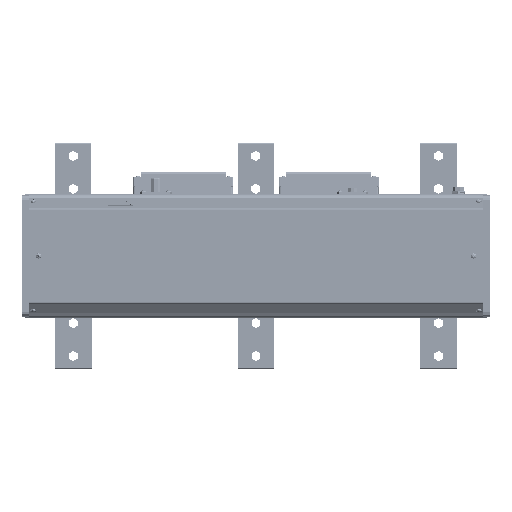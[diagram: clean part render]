
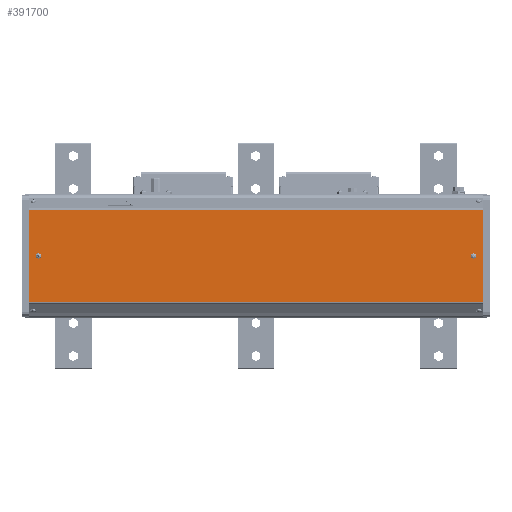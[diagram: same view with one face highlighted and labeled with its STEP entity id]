
A CAD part, front view. The second image highlights one B-rep face of the part: STEP entity #391700.
In plain terms, the highlighted planar face has unit normal (0, -1, 0) as drawn and (0, 0, -1) by its records, which use the part's own axes.
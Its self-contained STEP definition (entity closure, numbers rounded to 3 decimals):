
#10691 = EDGE_CURVE ( 'NONE', #251217, #399709, #363712, .T. ) ;
#15351 = CARTESIAN_POINT ( 'NONE',  ( 63., 260., 0. ) ) ;
#28715 = ORIENTED_EDGE ( 'NONE', *, *, #471254, .T. ) ;
#57140 = CARTESIAN_POINT ( 'NONE',  ( -2.5, 297.52, 0. ) ) ;
#60650 = PLANE ( 'NONE',  #719510 ) ;
#79266 = VECTOR ( 'NONE', #310806, 1000. ) ;
#79970 = VERTEX_POINT ( 'NONE', #57140 ) ;
#80660 = AXIS2_PLACEMENT_3D ( 'NONE', #192930, #586054, #249547 ) ;
#96344 = AXIS2_PLACEMENT_3D ( 'NONE', #331240, #724333, #387729 ) ;
#101328 = CARTESIAN_POINT ( 'NONE',  ( 2.5, -298., 0. ) ) ;
#105306 = FACE_BOUND ( 'NONE', #494055, .T. ) ;
#117368 = DIRECTION ( 'NONE',  ( 1., 0., 0. ) ) ;
#147781 = VECTOR ( 'NONE', #244217, 1000. ) ;
#184382 = CIRCLE ( 'NONE', #80660, 2.5 ) ;
#189197 = ORIENTED_EDGE ( 'NONE', *, *, #10691, .F. ) ;
#191516 = AXIS2_PLACEMENT_3D ( 'NONE', #267369, #660360, #323816 ) ;
#192930 = CARTESIAN_POINT ( 'NONE',  ( 0., 297.52, 0. ) ) ;
#194368 = DIRECTION ( 'NONE',  ( 0., 0., -1. ) ) ;
#194912 = CARTESIAN_POINT ( 'NONE',  ( 63., 310., 0. ) ) ;
#197685 = VERTEX_POINT ( 'NONE', #272285 ) ;
#197819 = CARTESIAN_POINT ( 'NONE',  ( -63., -260., 0. ) ) ;
#198300 = DIRECTION ( 'NONE',  ( -1., 0., 0. ) ) ;
#200318 = VERTEX_POINT ( 'NONE', #526926 ) ;
#244217 = DIRECTION ( 'NONE',  ( 0., -1., 0. ) ) ;
#249547 = DIRECTION ( 'NONE',  ( -1., 0., 0. ) ) ;
#251217 = VERTEX_POINT ( 'NONE', #101328 ) ;
#257727 = CARTESIAN_POINT ( 'NONE',  ( 63., 310., 0. ) ) ;
#267369 = CARTESIAN_POINT ( 'NONE',  ( 0., -298., 0. ) ) ;
#272285 = CARTESIAN_POINT ( 'NONE',  ( 63., -310., 0. ) ) ;
#283510 = EDGE_LOOP ( 'NONE', ( #376154, #477758, #28715, #660341 ) ) ;
#286408 = VERTEX_POINT ( 'NONE', #194912 ) ;
#305956 = EDGE_CURVE ( 'NONE', #286408, #200318, #348973, .T. ) ;
#310806 = DIRECTION ( 'NONE',  ( 0., 1., 0. ) ) ;
#320798 = CIRCLE ( 'NONE', #96344, 2.5 ) ;
#323816 = DIRECTION ( 'NONE',  ( -1., 0., 0. ) ) ;
#331240 = CARTESIAN_POINT ( 'NONE',  ( 0., 297.52, 0. ) ) ;
#348973 = LINE ( 'NONE', #257727, #647916 ) ;
#363712 = CIRCLE ( 'NONE', #191516, 2.5 ) ;
#375012 = LINE ( 'NONE', #532434, #506779 ) ;
#376154 = ORIENTED_EDGE ( 'NONE', *, *, #514929, .T. ) ;
#387642 = ORIENTED_EDGE ( 'NONE', *, *, #442668, .F. ) ;
#387729 = DIRECTION ( 'NONE',  ( -1., 0., 0. ) ) ;
#391700 = ADVANCED_FACE ( 'NONE', ( #105306, #685709, #536299 ), #60650, .F. ) ;
#399709 = VERTEX_POINT ( 'NONE', #685865 ) ;
#410046 = CARTESIAN_POINT ( 'NONE',  ( -63., -310., 0. ) ) ;
#430160 = EDGE_CURVE ( 'NONE', #672719, #79970, #320798, .T. ) ;
#442668 = EDGE_CURVE ( 'NONE', #79970, #672719, #184382, .T. ) ;
#447180 = EDGE_CURVE ( 'NONE', #197685, #639516, #375012, .T. ) ;
#454103 = DIRECTION ( 'NONE',  ( 0., 0., 1. ) ) ;
#471254 = EDGE_CURVE ( 'NONE', #639516, #200318, #659816, .T. ) ;
#477758 = ORIENTED_EDGE ( 'NONE', *, *, #447180, .T. ) ;
#494055 = EDGE_LOOP ( 'NONE', ( #387642, #537408 ) ) ;
#506779 = VECTOR ( 'NONE', #198300, 1000. ) ;
#514929 = EDGE_CURVE ( 'NONE', #286408, #197685, #596313, .T. ) ;
#526926 = CARTESIAN_POINT ( 'NONE',  ( -63., 310., 0. ) ) ;
#530960 = CARTESIAN_POINT ( 'NONE',  ( 0., -298., 0. ) ) ;
#532434 = CARTESIAN_POINT ( 'NONE',  ( 63., -310., 0. ) ) ;
#536299 = FACE_OUTER_BOUND ( 'NONE', #283510, .T. ) ;
#537408 = ORIENTED_EDGE ( 'NONE', *, *, #430160, .F. ) ;
#539967 = CARTESIAN_POINT ( 'NONE',  ( 2.5, 297.52, 0. ) ) ;
#574773 = CIRCLE ( 'NONE', #579090, 2.5 ) ;
#579090 = AXIS2_PLACEMENT_3D ( 'NONE', #530960, #194368, #587438 ) ;
#586054 = DIRECTION ( 'NONE',  ( 0., 0., -1. ) ) ;
#587438 = DIRECTION ( 'NONE',  ( -1., 0., 0. ) ) ;
#596313 = LINE ( 'NONE', #15351, #147781 ) ;
#626961 = EDGE_CURVE ( 'NONE', #399709, #251217, #574773, .T. ) ;
#639516 = VERTEX_POINT ( 'NONE', #410046 ) ;
#645812 = ORIENTED_EDGE ( 'NONE', *, *, #626961, .F. ) ;
#647916 = VECTOR ( 'NONE', #650749, 1000. ) ;
#650749 = DIRECTION ( 'NONE',  ( -1., 0., 0. ) ) ;
#659816 = LINE ( 'NONE', #197819, #79266 ) ;
#660341 = ORIENTED_EDGE ( 'NONE', *, *, #305956, .F. ) ;
#660360 = DIRECTION ( 'NONE',  ( 0., 0., -1. ) ) ;
#672719 = VERTEX_POINT ( 'NONE', #539967 ) ;
#677701 = CARTESIAN_POINT ( 'NONE',  ( 0., 0., 0. ) ) ;
#685709 = FACE_BOUND ( 'NONE', #718367, .T. ) ;
#685865 = CARTESIAN_POINT ( 'NONE',  ( -2.5, -298., 0. ) ) ;
#718367 = EDGE_LOOP ( 'NONE', ( #645812, #189197 ) ) ;
#719510 = AXIS2_PLACEMENT_3D ( 'NONE', #677701, #454103, #117368 ) ;
#724333 = DIRECTION ( 'NONE',  ( 0., 0., -1. ) ) ;
